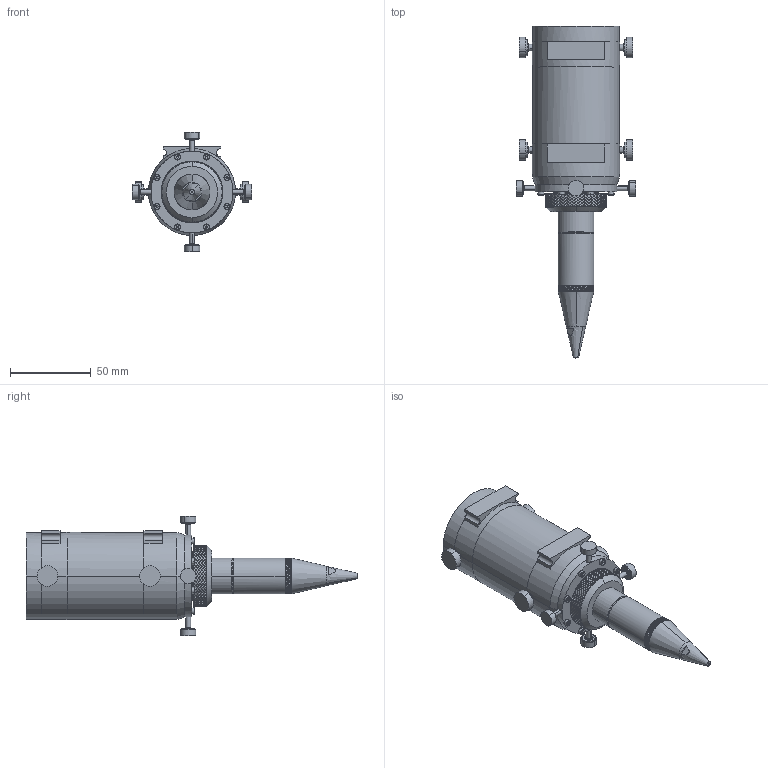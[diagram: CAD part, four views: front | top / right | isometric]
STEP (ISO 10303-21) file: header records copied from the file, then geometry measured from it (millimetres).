
FILE_DESCRIPTION (( 'STEP AP214' ), '1' );
FILE_NAME ('G1-25-25-127-191.STEP', '2016-10-28T15:22:35', ( '' ), ( '' ), 'SwSTEP 2.0', 'SolidWorks 2016', '' );
FILE_SCHEMA (( 'AUTOMOTIVE_DESIGN' ));
Products named in the file (1): G1-25-25-127-191
Bounding box: 74.2 x 205.8 x 74.2 mm (x, y, z)
Volume: 271635.1 mm3; surface area: 44826.7 mm2
Topology: 1 solids, 1 shells, 4022 faces, 8434 edges, 4432 vertices
Faces by surface type: bspline 2800, cylinder 872, plane 278, cone 52, torus 16, sphere 4
Entity records: 121494 total; most frequent: CARTESIAN_POINT 68341, ORIENTED_EDGE 16836, EDGE_CURVE 8418, DIRECTION 4504, VERTEX_POINT 4432, EDGE_LOOP 4082, ADVANCED_FACE 4022, FACE_OUTER_BOUND 4022
